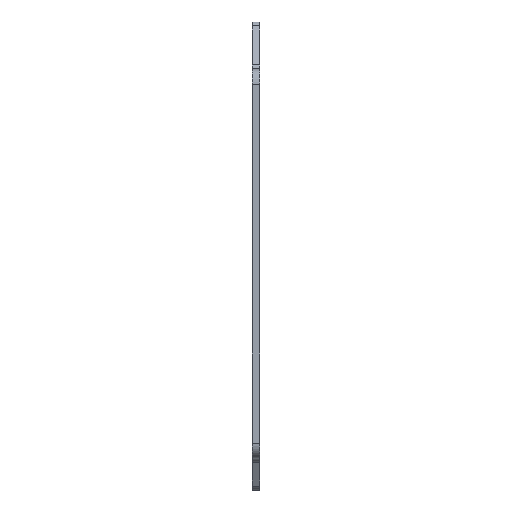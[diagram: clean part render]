
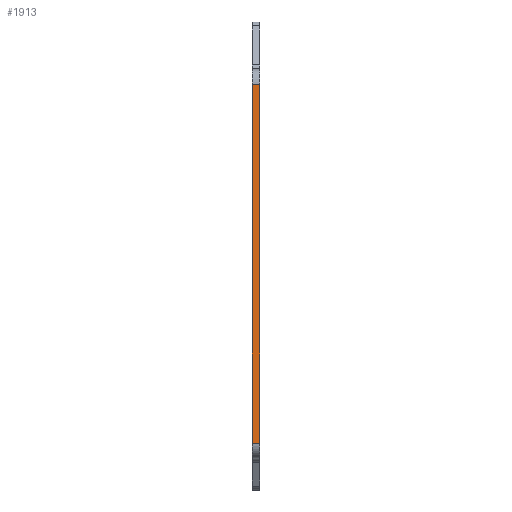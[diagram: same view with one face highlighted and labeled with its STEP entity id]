
A CAD part, left-side view. The second image highlights one B-rep face of the part: STEP entity #1913.
In plain terms, the highlighted planar face has unit normal (-1, 0, 0).
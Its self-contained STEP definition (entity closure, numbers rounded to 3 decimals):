
#81 = VECTOR ( 'NONE', #1457, 1000. ) ;
#201 = VERTEX_POINT ( 'NONE', #394 ) ;
#267 = ORIENTED_EDGE ( 'NONE', *, *, #1324, .T. ) ;
#321 = CARTESIAN_POINT ( 'NONE',  ( -74., 2., 46. ) ) ;
#372 = LINE ( 'NONE', #1586, #81 ) ;
#394 = CARTESIAN_POINT ( 'NONE',  ( -74., 0., 46. ) ) ;
#407 = VERTEX_POINT ( 'NONE', #879 ) ;
#496 = CARTESIAN_POINT ( 'NONE',  ( -74., 2., 46. ) ) ;
#502 = VECTOR ( 'NONE', #1086, 1000. ) ;
#541 = CARTESIAN_POINT ( 'NONE',  ( -74., 2., -46. ) ) ;
#640 = CARTESIAN_POINT ( 'NONE',  ( -74., 2., -46. ) ) ;
#675 = EDGE_CURVE ( 'NONE', #407, #201, #372, .T. ) ;
#691 = ORIENTED_EDGE ( 'NONE', *, *, #675, .T. ) ;
#756 = EDGE_CURVE ( 'NONE', #1452, #1823, #1984, .T. ) ;
#786 = DIRECTION ( 'NONE',  ( 0., 0., -1. ) ) ;
#879 = CARTESIAN_POINT ( 'NONE',  ( -74., 0., -46. ) ) ;
#926 = AXIS2_PLACEMENT_3D ( 'NONE', #321, #1557, #786 ) ;
#1086 = DIRECTION ( 'NONE',  ( 0., 0., 1. ) ) ;
#1092 = FACE_OUTER_BOUND ( 'NONE', #1312, .T. ) ;
#1093 = DIRECTION ( 'NONE',  ( 0., -1., 0. ) ) ;
#1113 = ORIENTED_EDGE ( 'NONE', *, *, #1433, .F. ) ;
#1154 = VECTOR ( 'NONE', #1634, 1000. ) ;
#1178 = LINE ( 'NONE', #1798, #1154 ) ;
#1279 = VECTOR ( 'NONE', #1093, 1000. ) ;
#1312 = EDGE_LOOP ( 'NONE', ( #691, #1113, #1494, #267 ) ) ;
#1324 = EDGE_CURVE ( 'NONE', #1452, #407, #1710, .T. ) ;
#1394 = CARTESIAN_POINT ( 'NONE',  ( -74., 2., 46. ) ) ;
#1433 = EDGE_CURVE ( 'NONE', #1823, #201, #1178, .T. ) ;
#1452 = VERTEX_POINT ( 'NONE', #541 ) ;
#1457 = DIRECTION ( 'NONE',  ( 0., 0., 1. ) ) ;
#1494 = ORIENTED_EDGE ( 'NONE', *, *, #756, .F. ) ;
#1557 = DIRECTION ( 'NONE',  ( 1., 0., 0. ) ) ;
#1586 = CARTESIAN_POINT ( 'NONE',  ( -74., 0., 46. ) ) ;
#1634 = DIRECTION ( 'NONE',  ( 0., -1., 0. ) ) ;
#1709 = PLANE ( 'NONE',  #926 ) ;
#1710 = LINE ( 'NONE', #640, #1279 ) ;
#1798 = CARTESIAN_POINT ( 'NONE',  ( -74., 2., 46. ) ) ;
#1823 = VERTEX_POINT ( 'NONE', #496 ) ;
#1913 = ADVANCED_FACE ( 'NONE', ( #1092 ), #1709, .F. ) ;
#1984 = LINE ( 'NONE', #1394, #502 ) ;
